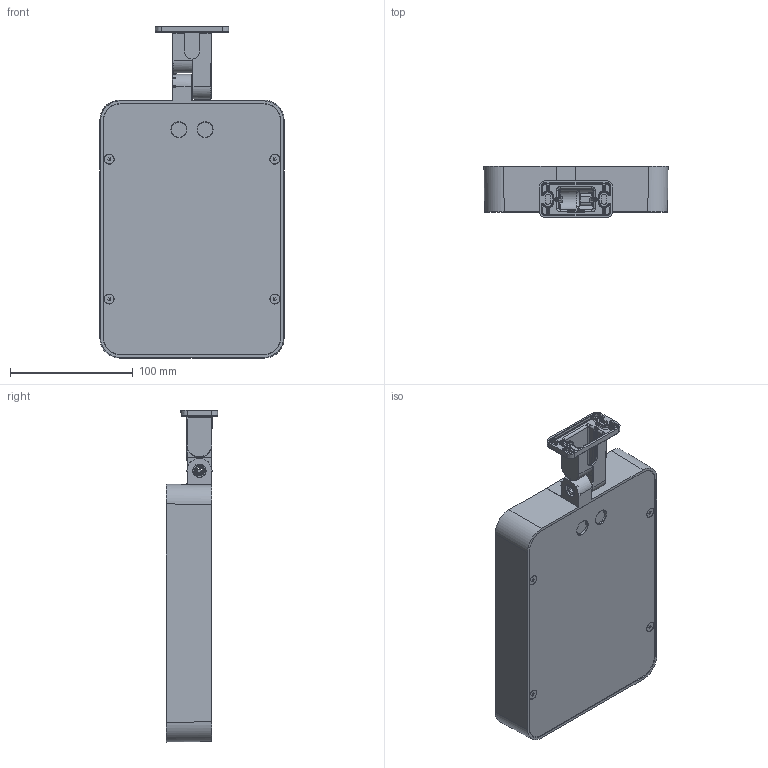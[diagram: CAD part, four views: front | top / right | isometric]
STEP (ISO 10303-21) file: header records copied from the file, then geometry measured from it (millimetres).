
FILE_DESCRIPTION((''),'2;1');
FILE_NAME('TAG210-COB-SAMSUNG_SW0001','2025-07-28T15:22:32',('Piccioli'),(''),'CREO PARAMETRIC BY PTC INC, 2025010','CREO PARAMETRIC BY PTC INC, 2025010','');
FILE_SCHEMA(('CONFIG_CONTROL_DESIGN'));
Products named in the file (1): TAG210-COB-SAMSUNG_SW0001
Bounding box: 150 x 42 x 270.5 mm (x, y, z)
Surface area: 222025 mm2 (no closed solid volume)
Topology: 0 solids, 72 shells, 691 faces, 3012 edges, 2349 vertices
Faces by surface type: plane 218, cylinder 205, cone 98, bspline 94, torus 68, sphere 8
Entity records: 48159 total; most frequent: CARTESIAN_POINT 25504, DIRECTION 4431, ORIENTED_EDGE 4074, EDGE_CURVE 3012, VERTEX_POINT 2349, AXIS2_PLACEMENT_3D 1540, VECTOR 1351, LINE 1351
